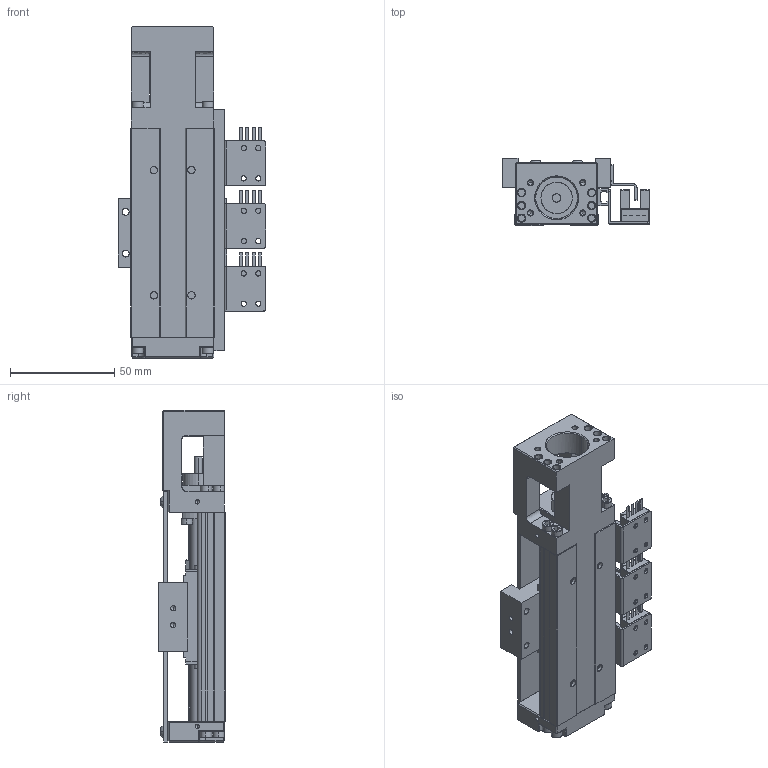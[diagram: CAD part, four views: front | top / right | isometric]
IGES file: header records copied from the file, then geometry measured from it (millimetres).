
Start section: SolidWorks IGES file using analytic representation for surfaces
Bounding box: 70.55 x 32 x 159 mm (x, y, z)
Surface area: 69735.1 mm2 (no closed solid volume)
Topology: 0 solids, 0 shells, 1313 faces, 15520 edges, 15424 vertices
Faces by surface type: bspline 742, revolution 571
